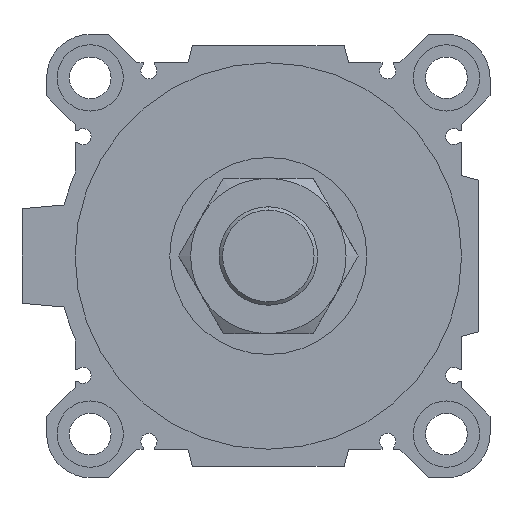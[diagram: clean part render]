
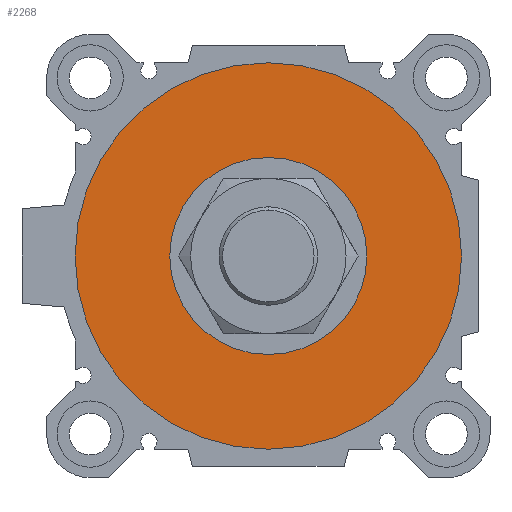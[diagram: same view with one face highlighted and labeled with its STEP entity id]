
A CAD part, left-side view. The second image highlights one B-rep face of the part: STEP entity #2268.
In plain terms, the highlighted planar face has unit normal (-1, 0, 0).
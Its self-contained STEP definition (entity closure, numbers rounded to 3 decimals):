
#45 = CARTESIAN_POINT ( 'NONE',  ( 6.5, 0., 0. ) ) ;
#403 = DIRECTION ( 'NONE',  ( 1., 0., 0. ) ) ;
#606 = PLANE ( 'NONE',  #2602 ) ;
#802 = CARTESIAN_POINT ( 'NONE',  ( 6.5, 0., -26. ) ) ;
#950 = VERTEX_POINT ( 'NONE', #5907 ) ;
#1107 = DIRECTION ( 'NONE',  ( 0., 0., -1. ) ) ;
#1350 = FACE_BOUND ( 'NONE', #3770, .T. ) ;
#1701 = ORIENTED_EDGE ( 'NONE', *, *, #4908, .T. ) ;
#1920 = CARTESIAN_POINT ( 'NONE',  ( 6.5, 0., 0. ) ) ;
#1983 = DIRECTION ( 'NONE',  ( 0., 0., -1. ) ) ;
#2216 = CARTESIAN_POINT ( 'NONE',  ( 6.5, 0., 0. ) ) ;
#2243 = EDGE_CURVE ( 'NONE', #950, #5584, #7832, .T. ) ;
#2268 = ADVANCED_FACE ( 'NONE', ( #6819, #1350 ), #606, .F. ) ;
#2478 = VERTEX_POINT ( 'NONE', #4975 ) ;
#2602 = AXIS2_PLACEMENT_3D ( 'NONE', #45, #3032, #5457 ) ;
#3032 = DIRECTION ( 'NONE',  ( 1., 0., 0. ) ) ;
#3073 = CARTESIAN_POINT ( 'NONE',  ( 6.5, 0., 0. ) ) ;
#3129 = ORIENTED_EDGE ( 'NONE', *, *, #2243, .F. ) ;
#3142 = DIRECTION ( 'NONE',  ( 1., 0., 0. ) ) ;
#3182 = AXIS2_PLACEMENT_3D ( 'NONE', #4854, #4930, #1107 ) ;
#3194 = ORIENTED_EDGE ( 'NONE', *, *, #5478, .F. ) ;
#3688 = CIRCLE ( 'NONE', #3182, 26. ) ;
#3770 = EDGE_LOOP ( 'NONE', ( #4691, #1701 ) ) ;
#4021 = DIRECTION ( 'NONE',  ( 0., 0., -1. ) ) ;
#4276 = EDGE_CURVE ( 'NONE', #2478, #6764, #4585, .T. ) ;
#4351 = EDGE_LOOP ( 'NONE', ( #3194, #3129 ) ) ;
#4585 = CIRCLE ( 'NONE', #6100, 26. ) ;
#4691 = ORIENTED_EDGE ( 'NONE', *, *, #4276, .T. ) ;
#4849 = AXIS2_PLACEMENT_3D ( 'NONE', #1920, #7579, #6382 ) ;
#4854 = CARTESIAN_POINT ( 'NONE',  ( 6.5, 0., 0. ) ) ;
#4908 = EDGE_CURVE ( 'NONE', #6764, #2478, #3688, .T. ) ;
#4930 = DIRECTION ( 'NONE',  ( 1., 0., 0. ) ) ;
#4943 = CARTESIAN_POINT ( 'NONE',  ( 6.5, 0., 51. ) ) ;
#4975 = CARTESIAN_POINT ( 'NONE',  ( 6.5, 0., 26. ) ) ;
#5232 = CIRCLE ( 'NONE', #4849, 51. ) ;
#5457 = DIRECTION ( 'NONE',  ( 0., 1., 0. ) ) ;
#5478 = EDGE_CURVE ( 'NONE', #5584, #950, #5232, .T. ) ;
#5584 = VERTEX_POINT ( 'NONE', #4943 ) ;
#5907 = CARTESIAN_POINT ( 'NONE',  ( 6.5, 0., -51. ) ) ;
#6100 = AXIS2_PLACEMENT_3D ( 'NONE', #2216, #403, #4021 ) ;
#6382 = DIRECTION ( 'NONE',  ( 0., 0., -1. ) ) ;
#6764 = VERTEX_POINT ( 'NONE', #802 ) ;
#6819 = FACE_OUTER_BOUND ( 'NONE', #4351, .T. ) ;
#7579 = DIRECTION ( 'NONE',  ( 1., 0., 0. ) ) ;
#7708 = AXIS2_PLACEMENT_3D ( 'NONE', #3073, #3142, #1983 ) ;
#7832 = CIRCLE ( 'NONE', #7708, 51. ) ;
